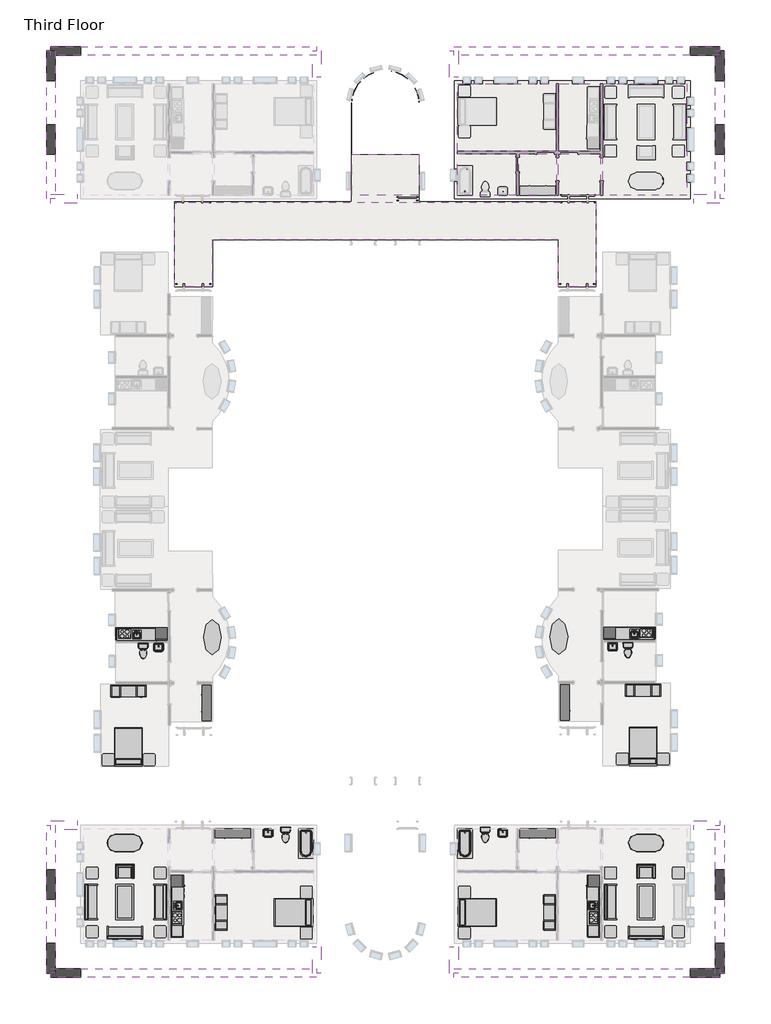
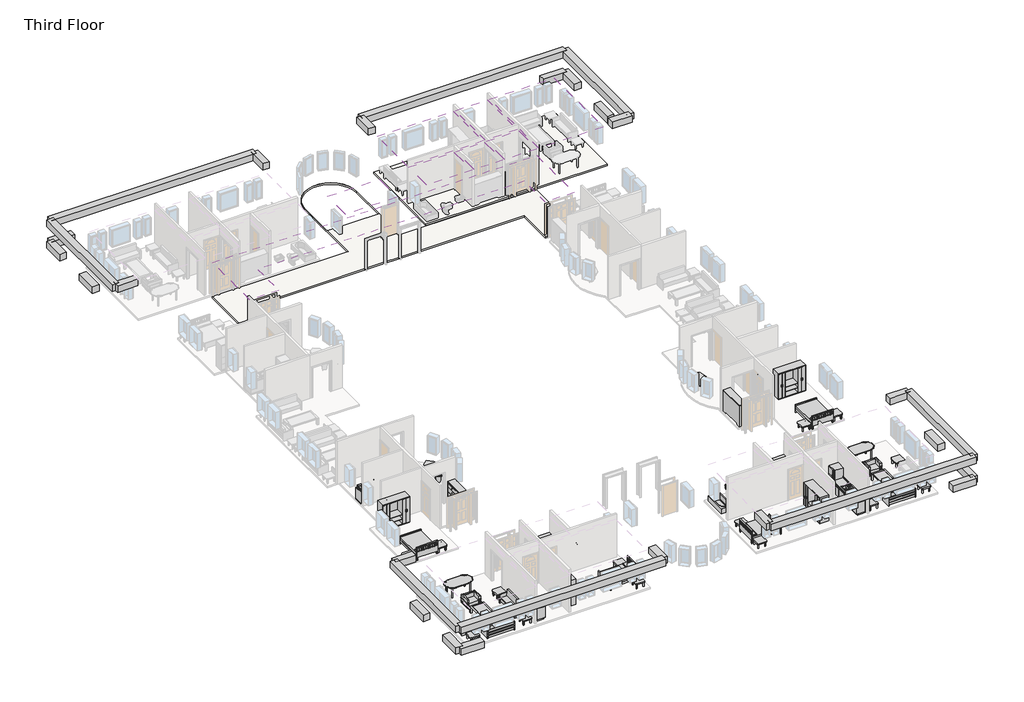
# One storey, part 4 of 5: 41 furniture elements, 28 beams, 10 flow terminals, 8 coverings, 4 proxies, 2 slabs.
"""IFC4 building model written with IfcOpenShell, lengths in millimetres."""

from ifc_helpers import new_model, si_unit, point, frame, frame_2d, origin, place, context, project, spatial, polyline, circle_curve, trimmed, segment, composite_curve, outline, extrude, transform, mapped, element, save
from components import kitchenette_medium_5_9f73a4de, kitchenette_medium_5_952fb32b, proxy_64a468c4, proxy_b7eaed23, flow_terminal_0aeb31e3, flow_terminal_b53e1081, toilet_domestic_3d_toilet_domestic_3d_f7549cf7, toilet_domestic_3d_toilet_domestic_3d_183bbd19, toilet_domestic_3d_toilet_domestic_3d_a08e12bc, toilet_domestic_3d_toilet_domestic_3d_5530cc89, tub_rectangular_3d_tub_rectangular_3d_5e45a89b, tub_rectangular_3d_tub_rectangular_3d_98eb9c7c, furniture_096e7f55, furniture_097b173b, chair_corbu_chair_corbu_2764bdef, chair_corbu_chair_corbu_95fad79a, furniture_7c473f12, furniture_f6e81328, furniture_ddc78764, furniture_328d9d47, furniture_4ef38d96, furniture_dde8a40a, furniture_cd93a443, furniture_c9413244, furniture_2c34a4f9, furniture_cc351095, furniture_43880056, furniture_a7425590, furniture_3a588284, furniture_1befe2a2

model = new_model("IFC4")

# Units and contexts
model_context = context("Model", 3, world=origin())
ifc_project = project(units=[si_unit("LENGTHUNIT", "METRE", prefix="MILLI")], contexts=[model_context])

# Site, building, storey
site = spatial("IfcSite", under=ifc_project)
building = spatial("IfcBuilding", under=site)
storey = spatial("IfcBuildingStorey", under=building, Name="Third Floor", Elevation=6096.0)

# Beams
placement = place(None, origin())
element("IfcBeam", 1, ObjectType="Concrete-Rectangular Beam : 18 x 18", at=placement, inside=storey, context=model_context, shape_type="SweptSolid", body=[
    extrude(outline(polyline([(2322.5410437, -35349.9683133), (2322.5410437, -35807.1683133), (-11393.4589563, -35807.1683133), (-11393.4589563, -35349.9683133), (2322.5410437, -35349.9683133)])), frame((0.0, 0.0, 8686.8), z_axis=(0.0, 0.0, 1.0), x_axis=(1.0, 0.0, 0.0)), (0.0, 0.0, 1.0), 457.2),
])
element("IfcBeam", 2, ObjectType="Concrete-Rectangular Beam : 18 x 18", at=placement, inside=storey, context=model_context, shape_type="SweptSolid", body=[
    extrude(outline(polyline([(2093.9410437, -27958.5683133), (2551.1410437, -27958.5683133), (2551.1410437, -35578.5683133), (2093.9410437, -35578.5683133), (2093.9410437, -27958.5683133)])), frame((0.0, 0.0, 8686.8), z_axis=(0.0, 0.0, 1.0), x_axis=(1.0, 0.0, 0.0)), (0.0, 0.0, 1.0), 457.2),
])
element("IfcBeam", 3, ObjectType="Concrete-Rectangular Beam : 18 x 18", at=placement, inside=storey, context=model_context, shape_type="SweptSolid", body=[
    extrude(outline(polyline([(-11622.0589563, -34232.3683133), (-11164.8589563, -34232.3683133), (-11164.8589563, -35578.5683133), (-11622.0589563, -35578.5683133), (-11622.0589563, -34232.3683133)])), frame((0.0, 0.0, 8686.8), z_axis=(0.0, 0.0, 1.0), x_axis=(1.0, 0.0, 0.0)), (0.0, 0.0, 1.0), 457.2),
])
element("IfcBeam", 4, ObjectType="Concrete-Rectangular Beam : 18 x 18", at=placement, inside=storey, context=model_context, shape_type="SweptSolid", body=[
    extrude(outline(polyline([(976.3410437, -28187.1683133), (976.3410437, -27729.9683133), (2322.5410437, -27729.9683133), (2322.5410437, -28187.1683133), (976.3410437, -28187.1683133)])), frame((0.0, 0.0, 8686.8), z_axis=(0.0, 0.0, 1.0), x_axis=(1.0, 0.0, 0.0)), (0.0, 0.0, 1.0), 457.2),
])
element("IfcBeam", 5, ObjectType="Concrete-Rectangular Beam : 18 x 18", at=placement, inside=storey, context=model_context, shape_type="SweptSolid", body=[
    extrude(outline(polyline([(798.5410437, -35807.1683133), (798.5410437, -35349.9683133), (2322.5410437, -35349.9683133), (2322.5410437, -35807.1683133), (798.5410437, -35807.1683133)])), frame((0.0, 0.0, 7162.8), z_axis=(0.0, 0.0, 1.0), x_axis=(1.0, 0.0, 0.0)), (0.0, 0.0, 1.0), 457.2),
])
element("IfcBeam", 6, ObjectType="Concrete-Rectangular Beam : 18 x 18", at=placement, inside=storey, context=model_context, shape_type="SweptSolid", body=[
    extrude(outline(polyline([(2093.9410437, -34054.5683133), (2551.1410437, -34054.5683133), (2551.1410437, -35578.5683133), (2093.9410437, -35578.5683133), (2093.9410437, -34054.5683133)])), frame((0.0, 0.0, 7162.8), z_axis=(0.0, 0.0, 1.0), x_axis=(1.0, 0.0, 0.0)), (0.0, 0.0, 1.0), 457.2),
])
element("IfcBeam", 7, ObjectType="Concrete-Rectangular Beam : 18 x 18", at=placement, inside=storey, context=model_context, shape_type="SweptSolid", body=[
    extrude(outline(polyline([(2093.9410437, -30244.5683133), (2551.1410437, -30244.5683133), (2551.1410437, -31768.5683133), (2093.9410437, -31768.5683133), (2093.9410437, -30244.5683133)])), frame((0.0, 0.0, 7162.8), z_axis=(0.0, 0.0, 1.0), x_axis=(1.0, 0.0, 0.0)), (0.0, 0.0, 1.0), 457.2),
])
element("IfcBeam", 8, ObjectType="Concrete-Rectangular Beam : 18 x 18", at=placement, inside=storey, context=model_context, shape_type="SweptSolid", body=[
    extrude(outline(polyline([(-32192.8839563, -35807.1683133), (-32192.8839563, -35349.9683133), (-18476.8839563, -35349.9683133), (-18476.8839563, -35807.1683133), (-32192.8839563, -35807.1683133)])), frame((0.0, 0.0, 8686.8), z_axis=(0.0, 0.0, 1.0), x_axis=(1.0, 0.0, 0.0)), (0.0, 0.0, 1.0), 457.2),
])
element("IfcBeam", 9, ObjectType="Concrete-Rectangular Beam : 18 x 18", at=placement, inside=storey, context=model_context, shape_type="SweptSolid", body=[
    extrude(outline(polyline([(-32421.4839563, -27958.5683133), (-31964.2839563, -27958.5683133), (-31964.2839563, -35578.5683133), (-32421.4839563, -35578.5683133), (-32421.4839563, -27958.5683133)])), frame((0.0, 0.0, 8686.8), z_axis=(0.0, 0.0, 1.0), x_axis=(1.0, 0.0, 0.0)), (0.0, 0.0, 1.0), 457.2),
])
element("IfcBeam", 10, ObjectType="Concrete-Rectangular Beam : 18 x 18", at=placement, inside=storey, context=model_context, shape_type="SweptSolid", body=[
    extrude(outline(polyline([(-18705.4839563, -34232.3683133), (-18248.2839563, -34232.3683133), (-18248.2839563, -35578.5683133), (-18705.4839563, -35578.5683133), (-18705.4839563, -34232.3683133)])), frame((0.0, 0.0, 8686.8), z_axis=(0.0, 0.0, 1.0), x_axis=(1.0, 0.0, 0.0)), (0.0, 0.0, 1.0), 457.2),
])
element("IfcBeam", 11, ObjectType="Concrete-Rectangular Beam : 18 x 18", at=placement, inside=storey, context=model_context, shape_type="SweptSolid", body=[
    extrude(outline(polyline([(-30846.6839563, -27729.9683133), (-30846.6839563, -28187.1683133), (-32192.8839563, -28187.1683133), (-32192.8839563, -27729.9683133), (-30846.6839563, -27729.9683133)])), frame((0.0, 0.0, 8686.8), z_axis=(0.0, 0.0, 1.0), x_axis=(1.0, 0.0, 0.0)), (0.0, 0.0, 1.0), 457.2),
])
element("IfcBeam", 12, ObjectType="Concrete-Rectangular Beam : 18 x 18", at=placement, inside=storey, context=model_context, shape_type="SweptSolid", body=[
    extrude(outline(polyline([(-30668.8839563, -35349.9683133), (-30668.8839563, -35807.1683133), (-32192.8839563, -35807.1683133), (-32192.8839563, -35349.9683133), (-30668.8839563, -35349.9683133)])), frame((0.0, 0.0, 7162.8), z_axis=(0.0, 0.0, 1.0), x_axis=(1.0, 0.0, 0.0)), (0.0, 0.0, 1.0), 457.2),
])
element("IfcBeam", 13, ObjectType="Concrete-Rectangular Beam : 18 x 18", at=placement, inside=storey, context=model_context, shape_type="SweptSolid", body=[
    extrude(outline(polyline([(-32421.4839563, -34054.5683133), (-31964.2839563, -34054.5683133), (-31964.2839563, -35578.5683133), (-32421.4839563, -35578.5683133), (-32421.4839563, -34054.5683133)])), frame((0.0, 0.0, 7162.8), z_axis=(0.0, 0.0, 1.0), x_axis=(1.0, 0.0, 0.0)), (0.0, 0.0, 1.0), 457.2),
])
element("IfcBeam", 14, ObjectType="Concrete-Rectangular Beam : 18 x 18", at=placement, inside=storey, context=model_context, shape_type="SweptSolid", body=[
    extrude(outline(polyline([(-32421.4839563, -30244.5683133), (-31964.2839563, -30244.5683133), (-31964.2839563, -31768.5683133), (-32421.4839563, -31768.5683133), (-32421.4839563, -30244.5683133)])), frame((0.0, 0.0, 7162.8), z_axis=(0.0, 0.0, 1.0), x_axis=(1.0, 0.0, 0.0)), (0.0, 0.0, 1.0), 457.2),
])
element("IfcBeam", 15, ObjectType="Concrete-Rectangular Beam : 18 x 18", at=placement, inside=storey, context=model_context, shape_type="SweptSolid", body=[
    extrude(outline(polyline([(2322.5410437, 12198.8316867), (2322.5410437, 11741.6316867), (-11393.4589563, 11741.6316867), (-11393.4589563, 12198.8316867), (2322.5410437, 12198.8316867)])), frame((0.0, 0.0, 8686.8), z_axis=(0.0, 0.0, 1.0), x_axis=(1.0, 0.0, 0.0)), (0.0, 0.0, 1.0), 457.2),
])
element("IfcBeam", 16, ObjectType="Concrete-Rectangular Beam : 18 x 18", at=placement, inside=storey, context=model_context, shape_type="SweptSolid", body=[
    extrude(outline(polyline([(2551.1410437, 4350.2316867), (2093.9410437, 4350.2316867), (2093.9410437, 11970.2316867), (2551.1410437, 11970.2316867), (2551.1410437, 4350.2316867)])), frame((0.0, 0.0, 8686.8), z_axis=(0.0, 0.0, 1.0), x_axis=(1.0, 0.0, 0.0)), (0.0, 0.0, 1.0), 457.2),
])
element("IfcBeam", 17, ObjectType="Concrete-Rectangular Beam : 18 x 18", at=placement, inside=storey, context=model_context, shape_type="SweptSolid", body=[
    extrude(outline(polyline([(-11164.8589563, 10624.0316867), (-11622.0589563, 10624.0316867), (-11622.0589563, 11970.2316867), (-11164.8589563, 11970.2316867), (-11164.8589563, 10624.0316867)])), frame((0.0, 0.0, 8686.8), z_axis=(0.0, 0.0, 1.0), x_axis=(1.0, 0.0, 0.0)), (0.0, 0.0, 1.0), 457.2),
])
element("IfcBeam", 18, ObjectType="Concrete-Rectangular Beam : 18 x 18", at=placement, inside=storey, context=model_context, shape_type="SweptSolid", body=[
    extrude(outline(polyline([(976.3410437, 4121.6316867), (976.3410437, 4578.8316867), (2322.5410437, 4578.8316867), (2322.5410437, 4121.6316867), (976.3410437, 4121.6316867)])), frame((0.0, 0.0, 8686.8), z_axis=(0.0, 0.0, 1.0), x_axis=(1.0, 0.0, 0.0)), (0.0, 0.0, 1.0), 457.2),
])
element("IfcBeam", 19, ObjectType="Concrete-Rectangular Beam : 18 x 18", at=placement, inside=storey, context=model_context, shape_type="SweptSolid", body=[
    extrude(outline(polyline([(798.5410437, 11741.6316867), (798.5410437, 12198.8316867), (2322.5410437, 12198.8316867), (2322.5410437, 11741.6316867), (798.5410437, 11741.6316867)])), frame((0.0, 0.0, 7162.8), z_axis=(0.0, 0.0, 1.0), x_axis=(1.0, 0.0, 0.0)), (0.0, 0.0, 1.0), 457.2),
])
element("IfcBeam", 20, ObjectType="Concrete-Rectangular Beam : 18 x 18", at=placement, inside=storey, context=model_context, shape_type="SweptSolid", body=[
    extrude(outline(polyline([(2551.1410437, 10446.2316867), (2093.9410437, 10446.2316867), (2093.9410437, 11970.2316867), (2551.1410437, 11970.2316867), (2551.1410437, 10446.2316867)])), frame((0.0, 0.0, 7162.8), z_axis=(0.0, 0.0, 1.0), x_axis=(1.0, 0.0, 0.0)), (0.0, 0.0, 1.0), 457.2),
])
element("IfcBeam", 21, ObjectType="Concrete-Rectangular Beam : 18 x 18", at=placement, inside=storey, context=model_context, shape_type="SweptSolid", body=[
    extrude(outline(polyline([(2551.1410437, 6636.2316867), (2093.9410437, 6636.2316867), (2093.9410437, 8160.2316867), (2551.1410437, 8160.2316867), (2551.1410437, 6636.2316867)])), frame((0.0, 0.0, 7162.8), z_axis=(0.0, 0.0, 1.0), x_axis=(1.0, 0.0, 0.0)), (0.0, 0.0, 1.0), 457.2),
])
element("IfcBeam", 22, ObjectType="Concrete-Rectangular Beam : 18 x 18", at=placement, inside=storey, context=model_context, shape_type="SweptSolid", body=[
    extrude(outline(polyline([(-32192.8839563, 11741.6316867), (-32192.8839563, 12198.8316867), (-18476.8839563, 12198.8316867), (-18476.8839563, 11741.6316867), (-32192.8839563, 11741.6316867)])), frame((0.0, 0.0, 8686.8), z_axis=(0.0, 0.0, 1.0), x_axis=(1.0, 0.0, 0.0)), (0.0, 0.0, 1.0), 457.2),
])
element("IfcBeam", 23, ObjectType="Concrete-Rectangular Beam : 18 x 18", at=placement, inside=storey, context=model_context, shape_type="SweptSolid", body=[
    extrude(outline(polyline([(-31964.2839563, 4350.2316867), (-32421.4839563, 4350.2316867), (-32421.4839563, 11970.2316867), (-31964.2839563, 11970.2316867), (-31964.2839563, 4350.2316867)])), frame((0.0, 0.0, 8686.8), z_axis=(0.0, 0.0, 1.0), x_axis=(1.0, 0.0, 0.0)), (0.0, 0.0, 1.0), 457.2),
])
element("IfcBeam", 24, ObjectType="Concrete-Rectangular Beam : 18 x 18", at=placement, inside=storey, context=model_context, shape_type="SweptSolid", body=[
    extrude(outline(polyline([(-18248.2839563, 10624.0316867), (-18705.4839563, 10624.0316867), (-18705.4839563, 11970.2316867), (-18248.2839563, 11970.2316867), (-18248.2839563, 10624.0316867)])), frame((0.0, 0.0, 8686.8), z_axis=(0.0, 0.0, 1.0), x_axis=(1.0, 0.0, 0.0)), (0.0, 0.0, 1.0), 457.2),
])
element("IfcBeam", 25, ObjectType="Concrete-Rectangular Beam : 18 x 18", at=placement, inside=storey, context=model_context, shape_type="SweptSolid", body=[
    extrude(outline(polyline([(-30846.6839563, 4578.8316867), (-30846.6839563, 4121.6316867), (-32192.8839563, 4121.6316867), (-32192.8839563, 4578.8316867), (-30846.6839563, 4578.8316867)])), frame((0.0, 0.0, 8686.8), z_axis=(0.0, 0.0, 1.0), x_axis=(1.0, 0.0, 0.0)), (0.0, 0.0, 1.0), 457.2),
])
element("IfcBeam", 26, ObjectType="Concrete-Rectangular Beam : 18 x 18", at=placement, inside=storey, context=model_context, shape_type="SweptSolid", body=[
    extrude(outline(polyline([(-30668.8839563, 12198.8316867), (-30668.8839563, 11741.6316867), (-32192.8839563, 11741.6316867), (-32192.8839563, 12198.8316867), (-30668.8839563, 12198.8316867)])), frame((0.0, 0.0, 7162.8), z_axis=(0.0, 0.0, 1.0), x_axis=(1.0, 0.0, 0.0)), (0.0, 0.0, 1.0), 457.2),
])
element("IfcBeam", 27, ObjectType="Concrete-Rectangular Beam : 18 x 18", at=placement, inside=storey, context=model_context, shape_type="SweptSolid", body=[
    extrude(outline(polyline([(-31964.2839563, 10446.2316867), (-32421.4839563, 10446.2316867), (-32421.4839563, 11970.2316867), (-31964.2839563, 11970.2316867), (-31964.2839563, 10446.2316867)])), frame((0.0, 0.0, 7162.8), z_axis=(0.0, 0.0, 1.0), x_axis=(1.0, 0.0, 0.0)), (0.0, 0.0, 1.0), 457.2),
])
element("IfcBeam", 28, ObjectType="Concrete-Rectangular Beam : 18 x 18", at=placement, inside=storey, context=model_context, shape_type="SweptSolid", body=[
    extrude(outline(polyline([(-31964.2839563, 6636.2316867), (-32421.4839563, 6636.2316867), (-32421.4839563, 8160.2316867), (-31964.2839563, 8160.2316867), (-31964.2839563, 6636.2316867)])), frame((0.0, 0.0, 7162.8), z_axis=(0.0, 0.0, 1.0), x_axis=(1.0, 0.0, 0.0)), (0.0, 0.0, 1.0), 457.2),
])

# Proxies
kitchenette_medium_5_shape = kitchenette_medium_5_9f73a4de(model_context)
element("IfcBuildingElementProxy", 29, Name="Kitchenette - Medium : 5'", ObjectType="Kitchenette - Medium : 5'", at=placement, inside=storey, context=model_context, shape_type="MappedRepresentation", body=[
    mapped(kitchenette_medium_5_shape, transform((-28107.606888, -17781.5711796, 6096.0), x_axis=(0.9999974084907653, 0.002276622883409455, 0.0), y_axis=(-0.002276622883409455, 0.9999974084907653, 0.0), z_axis=(0.0, 0.0, 1.0))),
])
kitchenette_medium_5_2_shape = kitchenette_medium_5_952fb32b(model_context)
element("IfcBuildingElementProxy", 30, Name="Kitchenette - Medium : 5'", ObjectType="Kitchenette - Medium : 5'", at=placement, inside=storey, context=model_context, shape_type="MappedRepresentation", body=[
    mapped(kitchenette_medium_5_2_shape, transform((-1744.2179937, -17741.558118, 6096.0), x_axis=(-0.999999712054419, -0.0007588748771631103, 0.0), y_axis=(0.0007588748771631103, -0.999999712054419, 0.0), z_axis=(0.0, 0.0, 1.0))),
])
proxy_shape = proxy_64a468c4(model_context)
element("IfcBuildingElementProxy", 31, Name="Kitchenette - Medium : 8'6\"", ObjectType="Kitchenette - Medium : 8'6\"", at=placement, inside=storey, context=model_context, shape_type="MappedRepresentation", body=[
    mapped(proxy_shape, transform((-25982.5839563, -32446.1322699, 6096.0), x_axis=(0.0, 1.0, 0.0), y_axis=(-1.0, 0.0, 0.0), z_axis=(0.0, 0.0, 1.0))),
])
proxy_2_shape = proxy_b7eaed23(model_context)
element("IfcBuildingElementProxy", 32, Name="Kitchenette - Medium : 8'6\"", ObjectType="Kitchenette - Medium : 8'6\"", at=placement, inside=storey, context=model_context, shape_type="MappedRepresentation", body=[
    mapped(proxy_2_shape, transform((-3887.7589563, -32446.1322699, 6096.0), x_axis=(0.0, 1.0, 0.0), y_axis=(-1.0, 0.0, 0.0), z_axis=(0.0, 0.0, 1.0))),
])

# Coverings
element("IfcCovering", 33, ObjectType="GWB on Mtl. Stud", at=placement, inside=storey, context=model_context, shape_type="SweptSolid", body=[
    extrude(outline(polyline([(-11217.2464563, 10270.0191867), (-6122.9589563, 10270.0191867), (-6122.9589563, 6787.0441867), (-11217.2464563, 6787.0441867), (-11217.2464563, 10270.0191867)])), frame((0.0, 0.0, 8686.8), z_axis=(0.0, 0.0, 1.0), x_axis=(1.0, 0.0, 0.0)), (0.0, 0.0, 1.0), 107.95),
])
element("IfcCovering", 34, ObjectType="GWB on Mtl. Stud", at=placement, inside=storey, context=model_context, shape_type="SweptSolid", body=[
    extrude(outline(polyline([(-5995.9589563, 6787.0441867), (-5995.9589563, 10270.0191867), (-3836.9589563, 10270.0191867), (-3836.9589563, 6787.0441867), (-5995.9589563, 6787.0441867)])), frame((0.0, 0.0, 8686.8), z_axis=(0.0, 0.0, 1.0), x_axis=(1.0, 0.0, 0.0)), (0.0, 0.0, 1.0), 107.95),
])
element("IfcCovering", 35, ObjectType="GWB on Mtl. Stud", at=placement, inside=storey, context=model_context, shape_type="SweptSolid", body=[
    extrude(outline(polyline([(-3709.9589563, 4526.4441867), (-3709.9589563, 10270.0191867), (622.3285437, 10270.0191867), (622.3285437, 4526.4441867), (-3709.9589563, 4526.4441867)])), frame((0.0, 0.0, 8686.8), z_axis=(0.0, 0.0, 1.0), x_axis=(1.0, 0.0, 0.0)), (0.0, 0.0, 1.0), 107.95),
])
element("IfcCovering", 36, ObjectType="GWB on Mtl. Stud", at=placement, inside=storey, context=model_context, shape_type="SweptSolid", body=[
    extrude(outline(polyline([(-3836.9589563, 4526.4441867), (-5995.9589563, 4526.4441867), (-5995.9589563, 6660.0441867), (-3836.9589563, 6660.0441867), (-3836.9589563, 4526.4441867)])), frame((0.0, 0.0, 8686.8), z_axis=(0.0, 0.0, 1.0), x_axis=(1.0, 0.0, 0.0)), (0.0, 0.0, 1.0), 107.95),
])
element("IfcCovering", 37, ObjectType="GWB on Mtl. Stud", at=placement, inside=storey, context=model_context, shape_type="SweptSolid", body=[
    extrude(outline(polyline([(-6122.9589563, 4526.4441867), (-8042.2464563, 4526.4441867), (-8042.2464563, 6660.0441867), (-6122.9589563, 6660.0441867), (-6122.9589563, 4526.4441867)])), frame((0.0, 0.0, 8686.8), z_axis=(0.0, 0.0, 1.0), x_axis=(1.0, 0.0, 0.0)), (0.0, 0.0, 1.0), 107.95),
])
element("IfcCovering", 38, ObjectType="GWB on Mtl. Stud", at=placement, inside=storey, context=model_context, shape_type="SweptSolid", body=[
    extrude(outline(polyline([(-8169.2464563, 6660.0441867), (-8169.2464563, 4526.4441867), (-11217.2464563, 4526.4441867), (-11217.2464563, 6660.0441867), (-8169.2464563, 6660.0441867)])), frame((0.0, 0.0, 8686.8), z_axis=(0.0, 0.0, 1.0), x_axis=(1.0, 0.0, 0.0)), (0.0, 0.0, 1.0), 107.95),
])
element("IfcCovering", 39, ObjectType="GWB on Mtl. Stud", at=placement, inside=storey, context=model_context, shape_type="SweptSolid", body=[
    extrude(outline(polyline([(-13206.3839563, 4526.4441867), (-16663.9589563, 4526.4441867), (-16663.9589563, 6636.2316867), (-13206.3839563, 6636.2316867), (-13206.3839563, 4526.4441867)])), frame((0.0, 0.0, 8534.4), z_axis=(0.0, 0.0, 1.0), x_axis=(1.0, 0.0, 0.0)), (0.0, 0.0, 1.0), 107.95),
])
element("IfcCovering", 40, ObjectType="GWB on Mtl. Stud", at=placement, inside=storey, context=model_context, shape_type="SweptSolid", body=[
    extrude(outline(polyline([(-5995.9589563, -197.9558133), (-5995.9589563, 2240.4441867), (-23874.3839563, 2240.4441867), (-23874.3839563, -197.9558133), (-25807.9589563, -197.9558133), (-25807.9589563, 4174.0191867), (-4062.3839563, 4174.0191867), (-4062.3839563, -197.9558133), (-5995.9589563, -197.9558133)])), frame((0.0, 0.0, 8534.4), z_axis=(0.0, 0.0, 1.0), x_axis=(1.0, 0.0, 0.0)), (0.0, 0.0, 1.0), 107.95),
])

# Flow terminals
flow_terminal_shape = flow_terminal_0aeb31e3(model_context)
element("IfcFlowTerminal", 41, ObjectType="Sink Vanity-Square : 24\" x 19\"", at=placement, inside=storey, context=model_context, shape_type="MappedRepresentation", body=[
    mapped(flow_terminal_shape, transform((-21005.5856969, -28314.9262144, 6096.0), x_axis=(1.0, 0.0, 0.0), y_axis=(0.0, 1.0, 0.0), z_axis=(0.0, 0.0, 1.0))),
])
element("IfcFlowTerminal", 42, ObjectType="Sink Vanity-Square : 24\" x 19\"", at=placement, inside=storey, context=model_context, shape_type="MappedRepresentation", body=[
    mapped(flow_terminal_shape, transform((-26654.3976584, -18738.7087237, 6096.0), x_axis=(0.9999974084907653, 0.0022766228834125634, 0.0), y_axis=(-0.0022766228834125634, 0.9999974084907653, 0.0), z_axis=(0.0, 0.0, 1.0))),
])
flow_terminal_2_shape = flow_terminal_b53e1081(model_context)
element("IfcFlowTerminal", 43, ObjectType="Sink Vanity-Square : 24\" x 19\"", at=placement, inside=storey, context=model_context, shape_type="MappedRepresentation", body=[
    mapped(flow_terminal_2_shape, transform((-8864.7572157, -28314.9262144, 6096.0), x_axis=(-1.0, 0.0, 0.0), y_axis=(0.0, -1.0, 0.0), z_axis=(0.0, 0.0, 1.0))),
])
element("IfcFlowTerminal", 44, ObjectType="Sink Vanity-Square : 24\" x 19\"", at=placement, inside=storey, context=model_context, shape_type="MappedRepresentation", body=[
    mapped(flow_terminal_2_shape, transform((-3194.5151418, -18703.102462, 6096.0), x_axis=(-0.999999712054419, -0.0007588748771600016, 0.0), y_axis=(0.0007588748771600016, -0.999999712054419, 0.0), z_axis=(0.0, 0.0, 1.0))),
])
toilet_domestic_3d_toilet_domestic_3d_shape = toilet_domestic_3d_toilet_domestic_3d_f7549cf7(model_context)
toilet_domestic_3d_toilet_domestic_3d_2_shape = toilet_domestic_3d_toilet_domestic_3d_183bbd19(model_context)
element("IfcFlowTerminal", 45, ObjectType="Toilet-Domestic-3D : Toilet-Domestic-3D", at=placement, inside=storey, context=model_context, shape_type="MappedRepresentation", body=[
    mapped(toilet_domestic_3d_toilet_domestic_3d_shape, transform((-20088.1962539, -28549.2030376, 6096.0), x_axis=(1.0000000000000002, 0.0, 0.0), y_axis=(0.0, 1.0000000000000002, 0.0), z_axis=(0.0, 0.0, 1.0))),
    mapped(toilet_domestic_3d_toilet_domestic_3d_2_shape, transform((-20088.1962539, -28549.2030376, 6096.0), x_axis=(1.0000000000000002, 0.0, 0.0), y_axis=(0.0, 1.0000000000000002, 0.0), z_axis=(0.0, 0.0, 1.0))),
])
element("IfcFlowTerminal", 46, ObjectType="Toilet-Domestic-3D : Toilet-Domestic-3D", at=placement, inside=storey, context=model_context, shape_type="MappedRepresentation", body=[
    mapped(toilet_domestic_3d_toilet_domestic_3d_shape, transform((-27433.2527987, -19065.9985435, 6096.0), x_axis=(0.9999974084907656, 0.00227662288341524, 0.0), y_axis=(-0.00227662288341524, 0.9999974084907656, 0.0), z_axis=(0.0, 0.0, 1.0))),
    mapped(toilet_domestic_3d_toilet_domestic_3d_2_shape, transform((-27433.2527987, -19065.9985435, 6096.0), x_axis=(0.9999974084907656, 0.00227662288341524, 0.0), y_axis=(-0.00227662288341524, 0.9999974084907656, 0.0), z_axis=(0.0, 0.0, 1.0))),
])
toilet_domestic_3d_toilet_domestic_3d_3_shape = toilet_domestic_3d_toilet_domestic_3d_a08e12bc(model_context)
toilet_domestic_3d_toilet_domestic_3d_4_shape = toilet_domestic_3d_toilet_domestic_3d_5530cc89(model_context)
element("IfcFlowTerminal", 47, ObjectType="Toilet-Domestic-3D : Toilet-Domestic-3D", at=placement, inside=storey, context=model_context, shape_type="MappedRepresentation", body=[
    mapped(toilet_domestic_3d_toilet_domestic_3d_3_shape, transform((-9782.1466587, -28549.2030376, 6096.0), x_axis=(-1.0000000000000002, 0.0, 0.0), y_axis=(0.0, -1.0000000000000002, 0.0), z_axis=(0.0, 0.0, 1.0))),
    mapped(toilet_domestic_3d_toilet_domestic_3d_4_shape, transform((-9782.1466587, -28549.2030376, 6096.0), x_axis=(-1.0000000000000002, 0.0, 0.0), y_axis=(0.0, -1.0000000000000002, 0.0), z_axis=(0.0, 0.0, 1.0))),
])
element("IfcFlowTerminal", 48, ObjectType="Toilet-Domestic-3D : Toilet-Domestic-3D", at=placement, inside=storey, context=model_context, shape_type="MappedRepresentation", body=[
    mapped(toilet_domestic_3d_toilet_domestic_3d_3_shape, transform((-2414.6701032, -19028.026563, 6096.0), x_axis=(-0.9999997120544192, -0.0007588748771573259, 0.0), y_axis=(0.0007588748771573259, -0.9999997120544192, 0.0), z_axis=(0.0, 0.0, 1.0))),
    mapped(toilet_domestic_3d_toilet_domestic_3d_4_shape, transform((-2414.6701032, -19028.026563, 6096.0), x_axis=(-0.9999997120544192, -0.0007588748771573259, 0.0), y_axis=(0.0007588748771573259, -0.9999997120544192, 0.0), z_axis=(0.0, 0.0, 1.0))),
])
tub_rectangular_3d_tub_rectangular_3d_shape = tub_rectangular_3d_tub_rectangular_3d_5e45a89b(model_context)
element("IfcFlowTerminal", 49, ObjectType="Tub-Rectangular-3D : Tub-Rectangular-3D", at=placement, inside=storey, context=model_context, shape_type="MappedRepresentation", body=[
    mapped(tub_rectangular_3d_tub_rectangular_3d_shape, transform((-18476.8839563, -29245.383782, 6096.0), x_axis=(0.0, -1.0, 0.0), y_axis=(1.0, 0.0, 0.0), z_axis=(0.0, 0.0, 1.0))),
])
tub_rectangular_3d_tub_rectangular_3d_2_shape = tub_rectangular_3d_tub_rectangular_3d_98eb9c7c(model_context)
element("IfcFlowTerminal", 50, ObjectType="Tub-Rectangular-3D : Tub-Rectangular-3D", at=placement, inside=storey, context=model_context, shape_type="MappedRepresentation", body=[
    mapped(tub_rectangular_3d_tub_rectangular_3d_2_shape, transform((-11393.4589563, -29245.383782, 6096.0), x_axis=(0.0, -1.0, 0.0), y_axis=(1.0, 0.0, 0.0), z_axis=(0.0, 0.0, 1.0))),
])

# Furniture
furniture_shape = furniture_096e7f55(model_context)
element("IfcFurniture", 51, ObjectType="Bed-Shaker : Double 56\" x 78\"", at=placement, inside=storey, context=model_context, shape_type="MappedRepresentation", body=[
    mapped(furniture_shape, transform((-18687.1446324, -32480.2121827, 6096.0), x_axis=(0.0, -1.0, 0.0), y_axis=(1.0, 0.0, 0.0), z_axis=(0.0, 0.0, 1.0))),
])
element("IfcFurniture", 52, ObjectType="Bed-Shaker : Double 56\" x 78\"", at=placement, inside=storey, context=model_context, shape_type="MappedRepresentation", body=[
    mapped(furniture_shape, transform((-28204.4366356, -24912.5804513, 6096.0), x_axis=(-0.9999974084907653, -0.0022766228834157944, 0.0), y_axis=(0.0022766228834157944, -0.9999974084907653, 0.0), z_axis=(0.0, 0.0, 1.0))),
])
furniture_2_shape = furniture_097b173b(model_context)
element("IfcFurniture", 53, ObjectType="Bed-Shaker : Double 56\" x 78\"", at=placement, inside=storey, context=model_context, shape_type="MappedRepresentation", body=[
    mapped(furniture_2_shape, transform((-11183.1982802, -32480.2121827, 6096.0), x_axis=(0.0, -1.0, 0.0), y_axis=(1.0, 0.0, 0.0), z_axis=(0.0, 0.0, 1.0))),
])
element("IfcFurniture", 54, ObjectType="Bed-Shaker : Double 56\" x 78\"", at=placement, inside=storey, context=model_context, shape_type="MappedRepresentation", body=[
    mapped(furniture_2_shape, transform((-1625.7425483, -24872.2406101, 6096.0), x_axis=(0.999999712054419, 0.0007588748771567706, 0.0), y_axis=(-0.0007588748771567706, 0.999999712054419, 0.0), z_axis=(0.0, 0.0, 1.0))),
])
chair_corbu_chair_corbu_shape = chair_corbu_chair_corbu_2764bdef(model_context)
element("IfcFurniture", 55, ObjectType="Chair-Corbu : Chair-Corbu", at=placement, inside=storey, context=model_context, shape_type="MappedRepresentation", body=[
    mapped(chair_corbu_chair_corbu_shape, transform((-28956.2577268, -30801.8328625, 6096.0), x_axis=(1.0, 0.0, 0.0), y_axis=(0.0, 1.0, 0.0), z_axis=(0.0, 0.0, 1.0))),
])
chair_corbu_chair_corbu_2_shape = chair_corbu_chair_corbu_95fad79a(model_context)
element("IfcFurniture", 56, ObjectType="Chair-Corbu : Chair-Corbu", at=placement, inside=storey, context=model_context, shape_type="MappedRepresentation", body=[
    mapped(chair_corbu_chair_corbu_2_shape, transform((-914.0851858, -30801.8328625, 6096.0), x_axis=(-1.0, 0.0, 0.0), y_axis=(0.0, -1.0, 0.0), z_axis=(0.0, 0.0, 1.0))),
])
furniture_3_shape = furniture_7c473f12(model_context)
element("IfcFurniture", 57, ObjectType="Dresser : 72\" x 60\" x 18\"", at=placement, inside=storey, context=model_context, shape_type="MappedRepresentation", body=[
    mapped(furniture_3_shape, transform((-22525.6906965, -28012.9178592, 6096.0), x_axis=(1.0, 0.0, 0.0), y_axis=(0.0, 1.0, 0.0), z_axis=(0.0, 0.0, 1.0))),
])
element("IfcFurniture", 58, ObjectType="Dresser : 72\" x 60\" x 18\"", at=placement, inside=storey, context=model_context, shape_type="MappedRepresentation", body=[
    mapped(furniture_3_shape, transform((-23801.477263, -21929.2966114, 6096.0), x_axis=(0.00227662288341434, -0.9999974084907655, 0.0), y_axis=(0.9999974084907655, 0.00227662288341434, 0.0), z_axis=(0.0, 0.0, 1.0))),
])
furniture_4_shape = furniture_f6e81328(model_context)
element("IfcFurniture", 59, ObjectType="Dresser : 72\" x 60\" x 18\"", at=placement, inside=storey, context=model_context, shape_type="MappedRepresentation", body=[
    mapped(furniture_4_shape, transform((-7344.6522161, -28012.9178592, 6096.0), x_axis=(-1.0, 0.0, 0.0), y_axis=(0.0, -1.0, 0.0), z_axis=(0.0, 0.0, 1.0))),
])
element("IfcFurniture", 60, ObjectType="Dresser : 72\" x 60\" x 18\"", at=placement, inside=storey, context=model_context, shape_type="MappedRepresentation", body=[
    mapped(furniture_4_shape, transform((-6037.7373795, -21902.3356763, 6096.0), x_axis=(0.0007588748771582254, -0.9999997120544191, 0.0), y_axis=(0.9999997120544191, 0.0007588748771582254, 0.0), z_axis=(0.0, 0.0, 1.0))),
])
furniture_5_shape = furniture_ddc78764(model_context)
element("IfcFurniture", 61, ObjectType="Entertainment Center : 72\" x 72\" x 24\"", at=placement, inside=storey, context=model_context, shape_type="MappedRepresentation", body=[
    mapped(furniture_5_shape, transform((-23810.8839563, -32461.1621827, 6096.0), x_axis=(0.0, 1.0, 0.0), y_axis=(-1.0, 0.0, 0.0), z_axis=(0.0, 0.0, 1.0))),
])
element("IfcFurniture", 62, ObjectType="Entertainment Center : 72\" x 72\" x 24\"", at=placement, inside=storey, context=model_context, shape_type="MappedRepresentation", body=[
    mapped(furniture_5_shape, transform((-28195.1288723, -20633.3206223, 6096.0), x_axis=(0.9999974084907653, 0.0022766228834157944, 0.0), y_axis=(-0.0022766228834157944, 0.9999974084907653, 0.0), z_axis=(0.0, 0.0, 1.0))),
])
furniture_6_shape = furniture_328d9d47(model_context)
element("IfcFurniture", 63, ObjectType="Entertainment Center : 72\" x 72\" x 24\"", at=placement, inside=storey, context=model_context, shape_type="MappedRepresentation", body=[
    mapped(furniture_6_shape, transform((-6059.4589563, -32461.1621827, 6096.0), x_axis=(0.0, 1.0, 0.0), y_axis=(-1.0, 0.0, 0.0), z_axis=(0.0, 0.0, 1.0))),
])
element("IfcFurniture", 64, ObjectType="Entertainment Center : 72\" x 72\" x 24\"", at=placement, inside=storey, context=model_context, shape_type="MappedRepresentation", body=[
    mapped(furniture_6_shape, transform((-1648.0399411, -20593.0287498, 6096.0), x_axis=(-0.999999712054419, -0.0007588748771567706, 0.0), y_axis=(0.0007588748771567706, -0.999999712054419, 0.0), z_axis=(0.0, 0.0, 1.0))),
])
furniture_7_shape = furniture_4ef38d96(model_context)
element("IfcFurniture", 65, ObjectType="Sofa : 72\"", at=placement, inside=storey, context=model_context, shape_type="MappedRepresentation", body=[
    mapped(furniture_7_shape, transform((-28312.5134645, -33349.614215, 6096.0), x_axis=(-1.0, 0.0, 0.0), y_axis=(0.0, -1.0, 0.0), z_axis=(0.0, 0.0, 1.0))),
])
element("IfcFurniture", 66, ObjectType="Sofa : 72\"", at=placement, inside=storey, context=model_context, shape_type="MappedRepresentation", body=[
    mapped(furniture_7_shape, transform((-29963.929858, -31991.3388051, 6096.0), x_axis=(0.0, 1.0, 0.0), y_axis=(-1.0, 0.0, 0.0), z_axis=(0.0, 0.0, 1.0))),
])
element("IfcFurniture", 67, ObjectType="Sofa : 72\"", at=placement, inside=storey, context=model_context, shape_type="MappedRepresentation", body=[
    mapped(furniture_7_shape, transform((-26700.2380547, -31850.5978215, 6096.0), x_axis=(0.0, -1.0, 0.0), y_axis=(1.0, 0.0, 0.0), z_axis=(0.0, 0.0, 1.0))),
])
furniture_8_shape = furniture_dde8a40a(model_context)
element("IfcFurniture", 68, ObjectType="Sofa : 72\"", at=placement, inside=storey, context=model_context, shape_type="MappedRepresentation", body=[
    mapped(furniture_8_shape, transform((-1557.8294481, -33349.614215, 6096.0), x_axis=(1.0, 0.0, 0.0), y_axis=(0.0, 1.0, 0.0), z_axis=(0.0, 0.0, 1.0))),
])
element("IfcFurniture", 69, ObjectType="Sofa : 72\"", at=placement, inside=storey, context=model_context, shape_type="MappedRepresentation", body=[
    mapped(furniture_8_shape, transform((-3170.104858, -31850.5978215, 6096.0), x_axis=(0.0, -1.0, 0.0), y_axis=(1.0, 0.0, 0.0), z_axis=(0.0, 0.0, 1.0))),
])
furniture_9_shape = furniture_cd93a443(model_context)
element("IfcFurniture", 70, ObjectType="Table-Coffee : 36\" x 72\" x 18\"", at=placement, inside=storey, context=model_context, shape_type="MappedRepresentation", body=[
    mapped(furniture_9_shape, transform((-28287.6728785, -31939.23408, 6096.0), x_axis=(0.0, 1.0, 0.0), y_axis=(-1.0, 0.0, 0.0), z_axis=(0.0, 0.0, 1.0))),
])
furniture_10_shape = furniture_c9413244(model_context)
element("IfcFurniture", 71, ObjectType="Table-Coffee : 36\" x 72\" x 18\"", at=placement, inside=storey, context=model_context, shape_type="MappedRepresentation", body=[
    mapped(furniture_10_shape, transform((-1582.6700341, -31939.23408, 6096.0), x_axis=(0.0, 1.0, 0.0), y_axis=(-1.0, 0.0, 0.0), z_axis=(0.0, 0.0, 1.0))),
])
furniture_11_shape = furniture_2c34a4f9(model_context)
element("IfcFurniture", 72, ObjectType="Table-Dining Oval : 36\" x 72\"", at=placement, inside=storey, context=model_context, shape_type="MappedRepresentation", body=[
    mapped(furniture_11_shape, transform((-28784.7036284, -29231.066674, 6096.0), x_axis=(-1.0, 0.0, 0.0), y_axis=(0.0, -1.0, 0.0), z_axis=(0.0, 0.0, 1.0))),
])
furniture_12_shape = furniture_cc351095(model_context)
element("IfcFurniture", 73, ObjectType="Table-Dining Oval : 36\" x 72\"", at=placement, inside=storey, context=model_context, shape_type="MappedRepresentation", body=[
    mapped(furniture_12_shape, transform((-1085.6392842, -29231.066674, 6096.0), x_axis=(1.0, 0.0, 0.0), y_axis=(0.0, 1.0, 0.0), z_axis=(0.0, 0.0, 1.0))),
])
furniture_13_shape = furniture_43880056(model_context)
element("IfcFurniture", 74, ObjectType="Table-Ellipse : 72\" x 36\"", at=placement, inside=storey, context=model_context, shape_type="MappedRepresentation", body=[
    mapped(furniture_13_shape, transform((-23868.1864956, -18263.2939384, 6096.0), x_axis=(-0.0022766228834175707, 0.9999974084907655, 0.0), y_axis=(-0.9999974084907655, -0.0022766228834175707, 0.0), z_axis=(0.0, 0.0, 1.0))),
])
furniture_14_shape = furniture_a7425590(model_context)
element("IfcFurniture", 75, ObjectType="Table-Ellipse : 72\" x 36\"", at=placement, inside=storey, context=model_context, shape_type="MappedRepresentation", body=[
    mapped(furniture_14_shape, transform((-5982.1565875, -18236.1473975, 6096.0), x_axis=(-0.0007588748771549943, 0.9999997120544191, 0.0), y_axis=(-0.9999997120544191, -0.0007588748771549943, 0.0), z_axis=(0.0, 0.0, 1.0))),
])
furniture_15_shape = furniture_3a588284(model_context)
element("IfcFurniture", 76, ObjectType="Table-End : 24\" x 24\"", at=placement, inside=storey, context=model_context, shape_type="MappedRepresentation", body=[
    mapped(furniture_15_shape, transform((-11164.2346356, -31557.9140031, 6096.0), x_axis=(1.0, 0.0, 0.0), y_axis=(0.0, 1.0, 0.0), z_axis=(0.0, 0.0, 1.0))),
])
element("IfcFurniture", 77, ObjectType="Table-End : 24\" x 24\"", at=placement, inside=storey, context=model_context, shape_type="MappedRepresentation", body=[
    mapped(furniture_15_shape, transform((-29750.750326, -33292.5683133, 6096.0), x_axis=(-1.0, 0.0, 0.0), y_axis=(0.0, -1.0, 0.0), z_axis=(0.0, 0.0, 1.0))),
])
element("IfcFurniture", 78, ObjectType="Table-End : 24\" x 24\"", at=placement, inside=storey, context=model_context, shape_type="MappedRepresentation", body=[
    mapped(furniture_15_shape, transform((-26245.550326, -33292.5683133, 6096.0), x_axis=(-1.0, 0.0, 0.0), y_axis=(0.0, -1.0, 0.0), z_axis=(0.0, 0.0, 1.0))),
])
element("IfcFurniture", 79, ObjectType="Table-End : 24\" x 24\"", at=placement, inside=storey, context=model_context, shape_type="MappedRepresentation", body=[
    mapped(furniture_15_shape, transform((-26245.550326, -30268.3808133, 6096.0), x_axis=(-1.0, 0.0, 0.0), y_axis=(0.0, -1.0, 0.0), z_axis=(0.0, 0.0, 1.0))),
])
element("IfcFurniture", 80, ObjectType="Table-End : 24\" x 24\"", at=placement, inside=storey, context=model_context, shape_type="MappedRepresentation", body=[
    mapped(furniture_15_shape, transform((-29750.750326, -30268.3808133, 6096.0), x_axis=(-1.0, 0.0, 0.0), y_axis=(0.0, -1.0, 0.0), z_axis=(0.0, 0.0, 1.0))),
])
element("IfcFurniture", 81, ObjectType="Table-End : 24\" x 24\"", at=placement, inside=storey, context=model_context, shape_type="MappedRepresentation", body=[
    mapped(furniture_15_shape, transform((-18706.1082771, -33364.4103623, 6096.0), x_axis=(-1.0, 0.0, 0.0), y_axis=(0.0, -1.0, 0.0), z_axis=(0.0, 0.0, 1.0))),
])
element("IfcFurniture", 82, ObjectType="Table-End : 24\" x 24\"", at=placement, inside=storey, context=model_context, shape_type="MappedRepresentation", body=[
    mapped(furniture_15_shape, transform((-2548.0548534, -24853.9768798, 6096.0), x_axis=(-0.0007588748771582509, 0.9999997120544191, 0.0), y_axis=(-0.9999997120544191, -0.0007588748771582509, 0.0), z_axis=(0.0, 0.0, 1.0))),
])
element("IfcFurniture", 83, ObjectType="Table-End : 24\" x 24\"", at=placement, inside=storey, context=model_context, shape_type="MappedRepresentation", body=[
    mapped(furniture_15_shape, transform((-29088.6756968, -24895.6298416, 6096.0), x_axis=(-0.0022766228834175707, 0.9999974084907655, 0.0), y_axis=(-0.9999974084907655, -0.0022766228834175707, 0.0), z_axis=(0.0, 0.0, 1.0))),
])
furniture_16_shape = furniture_1befe2a2(model_context)
element("IfcFurniture", 84, ObjectType="Table-End : 24\" x 24\"", at=placement, inside=storey, context=model_context, shape_type="MappedRepresentation", body=[
    mapped(furniture_16_shape, transform((-119.5925866, -33292.5683133, 6096.0), x_axis=(1.0, 0.0, 0.0), y_axis=(0.0, 1.0, 0.0), z_axis=(0.0, 0.0, 1.0))),
])
element("IfcFurniture", 85, ObjectType="Table-End : 24\" x 24\"", at=placement, inside=storey, context=model_context, shape_type="MappedRepresentation", body=[
    mapped(furniture_16_shape, transform((-3624.7925866, -33292.5683133, 6096.0), x_axis=(1.0, 0.0, 0.0), y_axis=(0.0, 1.0, 0.0), z_axis=(0.0, 0.0, 1.0))),
])
element("IfcFurniture", 86, ObjectType="Table-End : 24\" x 24\"", at=placement, inside=storey, context=model_context, shape_type="MappedRepresentation", body=[
    mapped(furniture_16_shape, transform((-3624.7925866, -30268.3808133, 6096.0), x_axis=(1.0, 0.0, 0.0), y_axis=(0.0, 1.0, 0.0), z_axis=(0.0, 0.0, 1.0))),
])
element("IfcFurniture", 87, ObjectType="Table-End : 24\" x 24\"", at=placement, inside=storey, context=model_context, shape_type="MappedRepresentation", body=[
    mapped(furniture_16_shape, transform((-119.5925866, -30268.3808133, 6096.0), x_axis=(1.0, 0.0, 0.0), y_axis=(0.0, 1.0, 0.0), z_axis=(0.0, 0.0, 1.0))),
])
element("IfcFurniture", 88, ObjectType="Table-End : 24\" x 24\"", at=placement, inside=storey, context=model_context, shape_type="MappedRepresentation", body=[
    mapped(furniture_16_shape, transform((-11164.2346356, -33364.4103623, 6096.0), x_axis=(1.0, 0.0, 0.0), y_axis=(0.0, 1.0, 0.0), z_axis=(0.0, 0.0, 1.0))),
])
element("IfcFurniture", 89, ObjectType="Table-End : 24\" x 24\"", at=placement, inside=storey, context=model_context, shape_type="MappedRepresentation", body=[
    mapped(furniture_16_shape, transform((-18706.1082771, -31557.9140031, 6096.0), x_axis=(-1.0, 0.0, 0.0), y_axis=(0.0, -1.0, 0.0), z_axis=(0.0, 0.0, 1.0))),
])
element("IfcFurniture", 90, ObjectType="Table-End : 24\" x 24\"", at=placement, inside=storey, context=model_context, shape_type="MappedRepresentation", body=[
    mapped(furniture_16_shape, transform((-741.5590143, -24852.6059751, 6096.0), x_axis=(-0.0007588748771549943, 0.9999997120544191, 0.0), y_axis=(-0.9999997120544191, -0.0007588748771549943, 0.0), z_axis=(0.0, 0.0, 1.0))),
])
element("IfcFurniture", 91, ObjectType="Table-End : 24\" x 24\"", at=placement, inside=storey, context=model_context, shape_type="MappedRepresentation", body=[
    mapped(furniture_16_shape, transform((-27282.1840192, -24891.5171307, 6096.0), x_axis=(-0.002276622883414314, 0.9999974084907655, 0.0), y_axis=(-0.9999974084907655, -0.002276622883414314, 0.0), z_axis=(0.0, 0.0, 1.0))),
])

# Slabs
element("IfcSlab", 92, ObjectType="LW Concrete on Metal Deck", at=placement, inside=storey, context=model_context, shape_type="SweptSolid", body=[
    extrude(outline(polyline([(787.4285437, 10435.1191867), (787.4285437, 4361.3441867), (-11382.3464563, 4361.3441867), (-11382.3464563, 10435.1191867), (787.4285437, 10435.1191867)])), frame((0.0, 0.0, 5991.225), z_axis=(0.0, 0.0, 1.0), x_axis=(1.0, 0.0, 0.0)), (0.0, 0.0, 1.0), 104.775),
])
element("IfcSlab", 93, ObjectType="LW Concrete on Metal Deck", at=placement, inside=storey, context=model_context, shape_type="SweptSolid", body=[
    extrude(outline(composite_curve([segment(polyline([(-13193.6839563, 9227.0316867), (-13193.6839563, 4186.7191867), (-4062.3839563, 4186.7191867), (-4062.3839563, -197.9558133), (-6008.6589563, -197.9558133), (-6008.6589563, 2227.7441867), (-23861.6839563, 2227.7441867), (-23861.6839563, -197.9558133), (-25807.9589563, -197.9558133), (-25807.9589563, 4186.7191867), (-16676.6589563, 4186.7191867), (-16676.6589563, 9227.0316867)]), True, "CONTINUOUS"), segment(trimmed(circle_curve(frame_2d((-14935.1714563, 9227.0316867)), 1741.4875), [point((-16676.6589563, 9227.0316867))], [point((-13193.6839563, 9227.0316867))], False, "CARTESIAN"), True, "CONTINUOUS")], self_intersect=False), holes=[composite_curve([segment(polyline([(-16663.9589563, 6636.2316867), (-13206.3839563, 6636.2316867), (-13206.3839563, 9227.0316867)]), True, "CONTINUOUS"), segment(trimmed(circle_curve(frame_2d((-14935.1714563, 9227.0316867)), 1728.7875), [point((-13206.3839563, 9227.0316867))], [point((-16663.9589563, 9227.0316867))], True, "CARTESIAN"), True, "CONTINUOUS"), segment(polyline([(-16663.9589563, 9227.0316867), (-16663.9589563, 6636.2316867)]), True, "CONTINUOUS")], self_intersect=False)]), frame((0.0, 0.0, 5991.225), z_axis=(0.0, 0.0, 1.0), x_axis=(1.0, 0.0, 0.0)), (0.0, 0.0, 1.0), 104.775),
])

save(model, "model.ifc")
